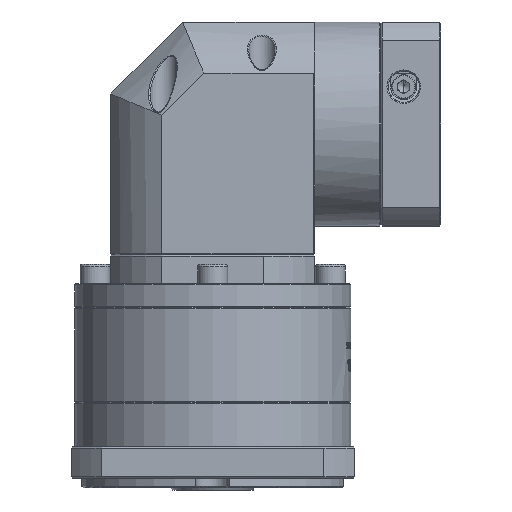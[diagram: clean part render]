
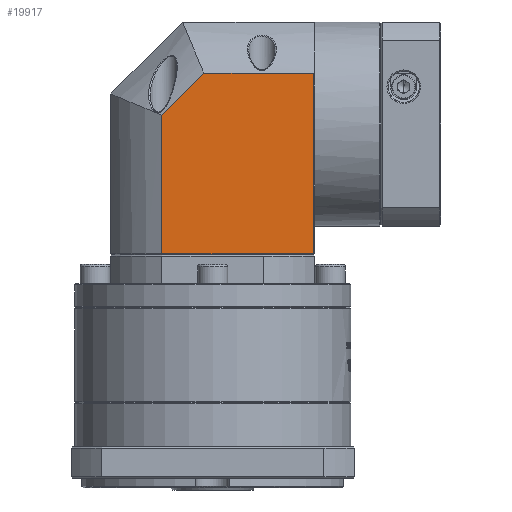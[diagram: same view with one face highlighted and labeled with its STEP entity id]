
A CAD part, front view. The second image highlights one B-rep face of the part: STEP entity #19917.
In plain terms, the highlighted planar face has unit normal (0, -1, 0).
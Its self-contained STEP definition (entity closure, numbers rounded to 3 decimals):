
#897 = CARTESIAN_POINT ( 'NONE',  ( 82.941, 99.792, 46.8 ) ) ;
#1999 = LINE ( 'NONE', #133331, #69672 ) ;
#2358 = ORIENTED_EDGE ( 'NONE', *, *, #48692, .T. ) ;
#13486 = EDGE_CURVE ( 'NONE', #28396, #65181, #107973, .T. ) ;
#19917 = ADVANCED_FACE ( 'NONE', ( #152707 ), #159782, .F. ) ;
#23487 = CARTESIAN_POINT ( 'NONE',  ( 82.941, 99.792, -49.7 ) ) ;
#28396 = VERTEX_POINT ( 'NONE', #47947 ) ;
#38165 = VECTOR ( 'NONE', #75266, 1000. ) ;
#40590 = LINE ( 'NONE', #146056, #104290 ) ;
#40823 = CARTESIAN_POINT ( 'NONE',  ( 82.441, 99.792, 25.514 ) ) ;
#46997 = DIRECTION ( 'NONE',  ( 1., 0., 0. ) ) ;
#47947 = CARTESIAN_POINT ( 'NONE',  ( 19.228, 99.792, -49.7 ) ) ;
#48692 = EDGE_CURVE ( 'NONE', #28396, #50532, #115360, .T. ) ;
#49653 = VERTEX_POINT ( 'NONE', #40823 ) ;
#50532 = VERTEX_POINT ( 'NONE', #77555 ) ;
#54160 = DIRECTION ( 'NONE',  ( -1., 0., 0. ) ) ;
#61806 = AXIS2_PLACEMENT_3D ( 'NONE', #897, #119599, #54160 ) ;
#64683 = VERTEX_POINT ( 'NONE', #147023 ) ;
#65181 = VERTEX_POINT ( 'NONE', #113621 ) ;
#67432 = DIRECTION ( 'NONE',  ( 0.707, 0., 0.707 ) ) ;
#69672 = VECTOR ( 'NONE', #104561, 1000. ) ;
#71370 = LINE ( 'NONE', #161400, #136946 ) ;
#72950 = ORIENTED_EDGE ( 'NONE', *, *, #84092, .F. ) ;
#75266 = DIRECTION ( 'NONE',  ( 0., 0., 1. ) ) ;
#77555 = CARTESIAN_POINT ( 'NONE',  ( 82.441, 99.792, -49.7 ) ) ;
#84092 = EDGE_CURVE ( 'NONE', #64683, #49653, #71370, .T. ) ;
#90826 = VECTOR ( 'NONE', #46997, 1000. ) ;
#92726 = ORIENTED_EDGE ( 'NONE', *, *, #165917, .F. ) ;
#104290 = VECTOR ( 'NONE', #67432, 1000. ) ;
#104561 = DIRECTION ( 'NONE',  ( 0., 0., -1. ) ) ;
#107973 = LINE ( 'NONE', #141264, #38165 ) ;
#113621 = CARTESIAN_POINT ( 'NONE',  ( 19.228, 99.792, 7.983 ) ) ;
#115360 = LINE ( 'NONE', #23487, #90826 ) ;
#119599 = DIRECTION ( 'NONE',  ( 0., 1., 0. ) ) ;
#122921 = DIRECTION ( 'NONE',  ( 1., 0., 0. ) ) ;
#123438 = EDGE_CURVE ( 'NONE', #65181, #64683, #40590, .T. ) ;
#133331 = CARTESIAN_POINT ( 'NONE',  ( 82.441, 99.792, 46.8 ) ) ;
#136091 = EDGE_LOOP ( 'NONE', ( #2358, #92726, #72950, #165656, #143647 ) ) ;
#136946 = VECTOR ( 'NONE', #122921, 1000. ) ;
#141264 = CARTESIAN_POINT ( 'NONE',  ( 19.228, 99.792, 46.8 ) ) ;
#143647 = ORIENTED_EDGE ( 'NONE', *, *, #13486, .F. ) ;
#146056 = CARTESIAN_POINT ( 'NONE',  ( 19.228, 99.792, 7.983 ) ) ;
#147023 = CARTESIAN_POINT ( 'NONE',  ( 36.759, 99.792, 25.514 ) ) ;
#152707 = FACE_OUTER_BOUND ( 'NONE', #136091, .T. ) ;
#159782 = PLANE ( 'NONE',  #61806 ) ;
#161400 = CARTESIAN_POINT ( 'NONE',  ( 82.941, 99.792, 25.514 ) ) ;
#165656 = ORIENTED_EDGE ( 'NONE', *, *, #123438, .F. ) ;
#165917 = EDGE_CURVE ( 'NONE', #49653, #50532, #1999, .T. ) ;
